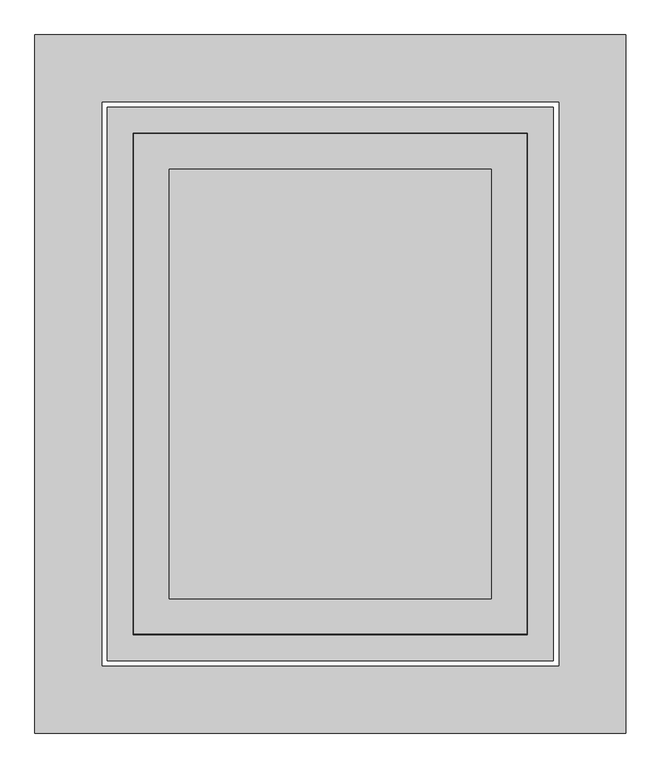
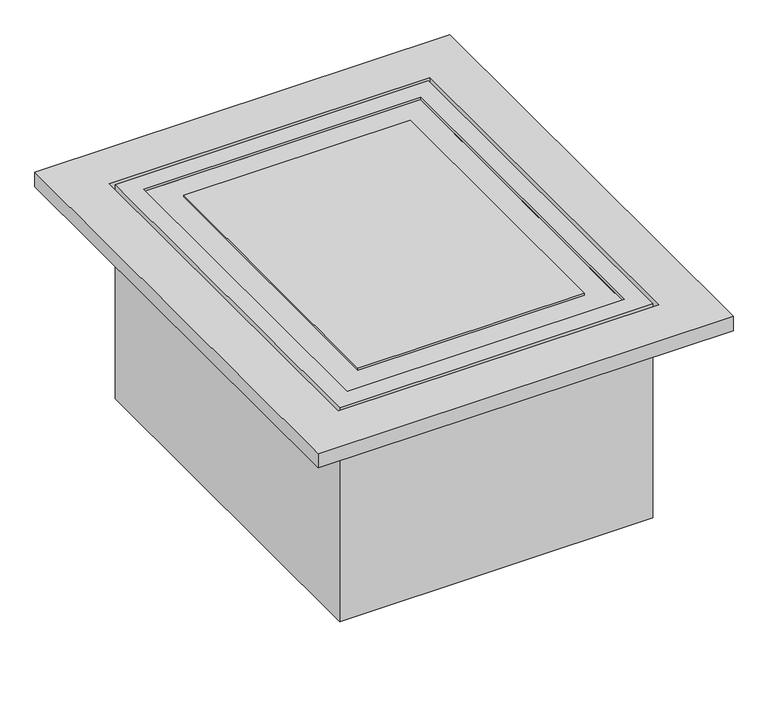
"""IFC4 building model written with IfcOpenShell, lengths in millimetres: air terminal geometry, NLRS_57_AIR_FB_Dakkap DK-2 verzonken_SMA : DK-2-verzonken."""

import ifcopenshell
import ifcopenshell.guid

model = None  # the IFC model being written
_history = None  # IfcOwnerHistory: only IFC2X3 demands one
_inside = {}  # id of a spatial element -> (the spatial element, [elements in it])
_under = {}  # id of a project, library or spatial element -> (it, [spatial elements below it])
_declared = {}  # id of a project -> (the project, [libraries it declares])
_typed = {}  # id of a type object -> (the type object, [elements of that type])
_made_of = {}  # id of a material, layer set ... -> (it, [elements and type objects made of it])


def new_model(schema):
    """Start an empty IFC model of exactly this schema.

    Asked for "IFC4X3", IfcOpenShell would pick the latest addendum, in which some entities
    have other attributes; the version numbers below select the first issue.
    IFC2X3 requires an IfcOwnerHistory on every rooted entity: one is made here for all.
    """
    global model, _history
    if schema == "IFC4X3":
        model = ifcopenshell.file(schema_version=(4, 3, 0, 0))
    else:
        model = ifcopenshell.file(schema=schema)
    _inside.clear()
    _under.clear()
    _declared.clear()
    _typed.clear()
    _made_of.clear()
    _history = None
    if model.schema == "IFC2X3":
        org = make("IfcOrganization", Name="unknown")
        user = make(
            "IfcPersonAndOrganization",
            ThePerson=make("IfcPerson", FamilyName="unknown"),
            TheOrganization=org,
        )
        app = make(
            "IfcApplication",
            ApplicationDeveloper=org,
            Version="unknown",
            ApplicationFullName="unknown",
            ApplicationIdentifier="unknown",
        )
        _history = make(
            "IfcOwnerHistory",
            OwningUser=user,
            OwningApplication=app,
            ChangeAction="ADDED",
            CreationDate=0,
        )
    return model


def make(cls, **values):
    """One entity of the class cls with the attributes given. An attribute that is None is left unset."""
    return model.create_entity(
        cls, **{name: value for name, value in values.items() if value is not None}
    )


def rooted(cls, **values):
    """An entity with a GlobalId (a new one), such as an element, a storey or a relation."""
    return make(cls, GlobalId=ifcopenshell.guid.new(), OwnerHistory=_history, **values)


def si_unit(unit_type, name, prefix=None):
    """IfcSIUnit, for example si_unit("LENGTHUNIT", "METRE", prefix="MILLI")."""
    return make("IfcSIUnit", UnitType=unit_type, Prefix=prefix, Name=name)


def assignment(units):
    """IfcUnitAssignment: the units of a project."""
    return None if units is None else make("IfcUnitAssignment", Units=units)


def point(xyz):
    """IfcCartesianPoint."""
    return None if xyz is None else make("IfcCartesianPoint", Coordinates=xyz)


def direction(xyz):
    """IfcDirection."""
    return None if xyz is None else make("IfcDirection", DirectionRatios=xyz)


def frame(location, z_axis=None, x_axis=None):
    """IfcAxis2Placement3D, a coordinate frame: its origin and axes. An axis left out is left unset."""
    return make(
        "IfcAxis2Placement3D",
        Location=point(location),
        Axis=direction(z_axis),
        RefDirection=direction(x_axis),
    )


def origin():
    """The frame at (0, 0, 0) with its axes left unset."""
    return frame((0.0, 0.0, 0.0))


def place(relative_to, where):
    """IfcLocalPlacement: puts the frame where relative to a parent placement (None: the world)."""
    return make(
        "IfcLocalPlacement", PlacementRelTo=relative_to, RelativePlacement=where
    )


def context(
    kind, dimensions, precision=None, world=None, true_north=None, identifier=None
):
    """IfcGeometricRepresentationContext, for example the 3D "Model" context."""
    return make(
        "IfcGeometricRepresentationContext",
        ContextIdentifier=identifier,
        ContextType=kind,
        CoordinateSpaceDimension=dimensions,
        Precision=precision,
        WorldCoordinateSystem=world,
        TrueNorth=true_north,
    )


def project(units=None, contexts=None):
    """IfcProject with its units and contexts."""
    return rooted(
        "IfcProject",
        Name="project",
        RepresentationContexts=contexts,
        UnitsInContext=assignment(units),
    )


def spatial(cls, under=None, at=None, **own):
    """A site, building, storey or space (cls), placed at a placement, below another one or the project."""
    s = rooted(cls, ObjectPlacement=at, **own)
    if under is not None:
        _under.setdefault(under.id(), (under, []))[1].append(s)
    return s


def faces_of(points, faces, orient=None, outer=None):
    """IfcFace entities. A face is a list of loops; a loop is a list of indices into points, from 0.

    orient and outer hold one flag for each loop. By default every Orientation is true, the
    first loop of a face is its IfcFaceOuterBound and the others are IfcFaceBound.
    """
    made = []
    for i, loops in enumerate(faces):
        bounds = []
        for j, loop in enumerate(loops):
            is_outer = j == 0 if outer is None else outer[i][j]
            bounds.append(
                make(
                    "IfcFaceOuterBound" if is_outer else "IfcFaceBound",
                    Bound=make("IfcPolyLoop", Polygon=[points[k] for k in loop]),
                    Orientation=True if orient is None else orient[i][j],
                )
            )
        made.append(make("IfcFace", Bounds=bounds))
    return made


def faceted_brep(points, faces, orient=None, outer=None, voids=None):
    """IfcFacetedBrep: a solid bounded by flat faces; with voids (closed shells), ...WithVoids."""
    shared = [point(p) for p in points]
    hull = make("IfcClosedShell", CfsFaces=faces_of(shared, faces, orient, outer))
    if voids is None:
        return make("IfcFacetedBrep", Outer=hull)
    return make(
        "IfcFacetedBrepWithVoids",
        Outer=hull,
        Voids=[
            make(cls, CfsFaces=faces_of(shared, fs, o, b)) for cls, fs, o, b in voids
        ],
    )


def shape(context_of_items, identifier, shape_type, items):
    """IfcShapeRepresentation: the items that make up one representation, for example the "Body"."""
    return make(
        "IfcShapeRepresentation",
        ContextOfItems=context_of_items,
        RepresentationIdentifier=identifier,
        RepresentationType=shape_type,
        Items=items,
    )


def source(mapping_origin, context_of_items, identifier, shape_type, items):
    """IfcRepresentationMap: a shape defined once, which mapped items show again and again."""
    return make(
        "IfcRepresentationMap",
        MappingOrigin=mapping_origin,
        MappedRepresentation=shape(context_of_items, identifier, shape_type, items),
    )


def transform(
    local_origin,
    x_axis=None,
    y_axis=None,
    z_axis=None,
    scale=None,
    scale2=None,
    scale3=None,
    uniform=True,
):
    """IfcCartesianTransformationOperator3D, or its non-uniform kind. x_axis, y_axis, z_axis: its Axis1, 2, 3."""
    if uniform:
        return make(
            "IfcCartesianTransformationOperator3D",
            Axis1=direction(x_axis),
            Axis2=direction(y_axis),
            LocalOrigin=point(local_origin),
            Scale=scale,
            Axis3=direction(z_axis),
        )
    return make(
        "IfcCartesianTransformationOperator3DnonUniform",
        Axis1=direction(x_axis),
        Axis2=direction(y_axis),
        LocalOrigin=point(local_origin),
        Scale=scale,
        Axis3=direction(z_axis),
        Scale2=scale2,
        Scale3=scale3,
    )


def mapped(mapping_source, mapping_target):
    """IfcMappedItem: shows the shape of a source again, moved by a transform."""
    return make(
        "IfcMappedItem", MappingSource=mapping_source, MappingTarget=mapping_target
    )


def made_of(thing, what):
    """Note that an element or type object is made of a material, layer set ...; save() writes the relation."""
    if what is not None:
        _made_of.setdefault(what.id(), (what, []))[1].append(thing)
    return thing


def element(
    cls,
    number,
    at=None,
    inside=None,
    cuts=None,
    type_object=None,
    material=None,
    context=None,
    identifier="Body",
    shape_type=None,
    held_by="IfcProductDefinitionShape",
    body=None,
    shapes=None,
    **own,
):
    """One element of the class cls, such as IfcWall. Its Tag is "e" and its number.

    at: its placement. inside: the storey or other place that contains it. cuts: it is an
    opening in that element (IfcRelVoidsElement). A single representation is given by context,
    identifier, shape_type and body (its items); several are given by shapes. held_by: the class
    of the entity that holds the representations. save() writes the other relations.
    """
    e = rooted(cls, Tag="e%d" % number, ObjectPlacement=at, **own)
    if body is not None:
        shapes = [shape(context, identifier, shape_type, body)]
    if shapes is not None:
        e.Representation = make(held_by, Representations=shapes)
    if inside is not None:
        _inside.setdefault(inside.id(), (inside, []))[1].append(e)
    if cuts is not None:
        rooted(
            "IfcRelVoidsElement", RelatingBuildingElement=cuts, RelatedOpeningElement=e
        )
    if type_object is not None:
        _typed.setdefault(type_object.id(), (type_object, []))[1].append(e)
    return made_of(e, material)


def aggregate(whole, parts):
    """IfcRelAggregates: a whole, such as a stair, and the parts it consists of."""
    return rooted("IfcRelAggregates", RelatingObject=whole, RelatedObjects=parts)


def save(model, path):
    """Write the relations noted so far, then the file.

    IfcRelAggregates (storeys below a building ...), IfcRelContainedInSpatialStructure (elements
    in a storey), IfcRelDefinesByType, IfcRelAssociatesMaterial and IfcRelDeclares: one each for
    every whole, place, type object, material and project.
    """
    for whole, parts in _under.values():
        aggregate(whole, parts)
    for where, things in _inside.values():
        rooted(
            "IfcRelContainedInSpatialStructure",
            RelatedElements=things,
            RelatingStructure=where,
        )
    for kind, things in _typed.values():
        rooted("IfcRelDefinesByType", RelatedObjects=things, RelatingType=kind)
    for what, things in _made_of.values():
        rooted("IfcRelAssociatesMaterial", RelatedObjects=things, RelatingMaterial=what)
    for by, libraries in _declared.values():
        rooted("IfcRelDeclares", RelatingContext=by, RelatedDefinitions=libraries)
    model.write(path)


def air_terminal_f73d2a48(model_context):
    return source(origin(), model_context, "Body", "Brep", [
        faceted_brep([(300.0, 400.0, -397.8), (300.0, 400.0, -400.0), (300.0, -400.0, -400.0), (300.0, -400.0, -397.8), (412.0, 512.0, 198.0), (412.0, 512.0, -397.8), (412.0, -512.0, -397.8), (412.0, -512.0, 198.0), (369.0, 469.0, 187.5), (369.0, 469.0, 198.0), (369.0, -469.0, 198.0), (369.0, -469.0, 187.5), (354.5, 454.5, 188.7687085), (354.5, 454.5, 187.5), (354.5, -454.5, 187.5), (354.5, -454.5, 188.7687085), (364.5, 464.5, 193.9627225), (364.5, 464.5, 188.7687085), (364.5, -464.5, 188.7687085), (364.5, -464.5, 193.9627225), (365.5, 465.5, 188.7687085), (365.5, 465.5, 195.0), (365.5, -465.5, 195.0), (365.5, -465.5, 188.7687085), (367.0, 467.0, 200.0), (367.0, 467.0, 188.7687085), (367.0, -467.0, 188.7687085), (367.0, -467.0, 200.0), (415.0, 515.0, -400.0), (415.0, 515.0, 200.0), (415.0, -515.0, 200.0), (415.0, -515.0, -400.0), (-300.0, -400.0, -400.0), (-300.0, -400.0, -397.8), (-412.0, -512.0, -397.8), (-412.0, -512.0, 198.0), (-369.0, -469.0, 198.0), (-369.0, -469.0, 187.5), (-354.5, -454.5, 187.5), (-354.5, -454.5, 188.7687085), (-364.5, -464.5, 188.7687085), (-364.5, -464.5, 193.9627225), (-365.5, -465.5, 195.0), (-365.5, -465.5, 188.7687085), (-367.0, -467.0, 188.7687085), (-367.0, -467.0, 200.0), (-415.0, -515.0, 200.0), (-415.0, -515.0, -400.0), (-300.0, 400.0, -400.0), (-300.0, 400.0, -397.8), (-412.0, 512.0, -397.8), (-412.0, 512.0, 198.0), (-369.0, 469.0, 198.0), (-369.0, 469.0, 187.5), (-354.5, 454.5, 187.5), (-354.5, 454.5, 188.7687085), (-364.5, 464.5, 188.7687085), (-364.5, 464.5, 193.9627225), (-365.5, 465.5, 195.0), (-365.5, 465.5, 188.7687085), (-367.0, 467.0, 188.7687085), (-367.0, 467.0, 200.0), (-415.0, 515.0, 200.0), (-415.0, 515.0, -400.0), (300.0, 400.0, 193.9627225), (-300.0, 400.0, 193.9627225), (-300.0, -400.0, 193.9627225), (300.0, -400.0, 193.9627225), (-300.0, 400.0, 195.0), (300.0, 400.0, 195.0), (300.0, -400.0, 195.0), (-300.0, -400.0, 195.0), (300.0, 400.0, 200.0), (-300.0, 400.0, 200.0), (-300.0, -400.0, 200.0), (300.0, -400.0, 200.0), (300.0, 400.0, 193.2029442), (300.0, -400.0, 193.2029442), (-300.0, -400.0, 193.2029442), (-300.0, 400.0, 193.2029442)], [[[0, 1, 2, 3]], [[4, 5, 6, 7]], [[8, 9, 10, 11]], [[12, 13, 14, 15]], [[16, 17, 18, 19]], [[20, 21, 22, 23]], [[24, 25, 26, 27]], [[28, 29, 30, 31]], [[3, 2, 32, 33]], [[7, 6, 34, 35]], [[11, 10, 36, 37]], [[15, 14, 38, 39]], [[19, 18, 40, 41]], [[23, 22, 42, 43]], [[27, 26, 44, 45]], [[31, 30, 46, 47]], [[33, 32, 48, 49]], [[35, 34, 50, 51]], [[37, 36, 52, 53]], [[39, 38, 54, 55]], [[41, 40, 56, 57]], [[43, 42, 58, 59]], [[45, 44, 60, 61]], [[47, 46, 62, 63]], [[28, 31, 47, 63], [2, 1, 48, 32]], [[1, 0, 49, 48]], [[6, 5, 50, 34], [0, 3, 33, 49]], [[5, 4, 51, 50]], [[4, 7, 35, 51], [10, 9, 52, 36]], [[9, 8, 53, 52]], [[8, 11, 37, 53], [14, 13, 54, 38]], [[13, 12, 55, 54]], [[18, 17, 56, 40], [12, 15, 39, 55]], [[17, 16, 57, 56]], [[16, 19, 41, 57], [64, 65, 66, 67]], [[22, 21, 58, 42], [68, 69, 70, 71]], [[21, 20, 59, 58]], [[26, 25, 60, 44], [20, 23, 43, 59]], [[25, 24, 61, 60]], [[30, 29, 62, 46], [24, 27, 45, 61]], [[29, 28, 63, 62]], [[72, 73, 74, 75]], [[76, 77, 78, 79]], [[73, 72, 69, 68]], [[76, 79, 65, 64]], [[74, 73, 68, 71]], [[79, 78, 66, 65]], [[75, 74, 71, 70]], [[78, 77, 67, 66]], [[72, 75, 70, 69]], [[77, 76, 64, 67]]]),
        faceted_brep([(550.0, 650.0, 200.0), (-550.0, 650.0, 200.0), (-550.0, -650.0, 200.0), (550.0, -650.0, 200.0), (425.0, 525.0, 200.0), (425.0, -525.0, 200.0), (-425.0, -525.0, 200.0), (-425.0, 525.0, 200.0), (550.0, 650.0, 160.0), (550.0, -650.0, 160.0), (-550.0, -650.0, 160.0), (-550.0, 650.0, 160.0), (425.0, 525.0, 160.0), (-425.0, 525.0, 160.0), (-425.0, -525.0, 160.0), (425.0, -525.0, 160.0)], [[[0, 1, 2, 3], [4, 5, 6, 7]], [[8, 9, 10, 11], [12, 13, 14, 15]], [[1, 0, 8, 11]], [[2, 1, 11, 10]], [[3, 2, 10, 9]], [[0, 3, 9, 8]], [[5, 4, 12, 15]], [[6, 5, 15, 14]], [[7, 6, 14, 13]], [[4, 7, 13, 12]]]),
    ])


if __name__ == "__main__":
    model = new_model("IFC4")
    model_context = context("Model", 3, world=origin())
    ifc_project = project(units=[si_unit("LENGTHUNIT", "METRE", prefix="MILLI")], contexts=[model_context])
    site = spatial("IfcSite", under=ifc_project)
    building = spatial("IfcBuilding", under=site)
    placement = place(None, origin())
    air_terminal_shape = air_terminal_f73d2a48(model_context)
    element("IfcAirTerminal", 1, ObjectType="NLRS_57_AIR_FB_Dakkap DK-2 verzonken_SMA : DK-2-verzonken", at=placement, inside=building, context=model_context, shape_type="MappedRepresentation", body=[
        mapped(air_terminal_shape, transform((0.0, 0.0, 0.0), x_axis=(1.0, 0.0, 0.0), y_axis=(0.0, 1.0, 0.0), z_axis=(0.0, 0.0, 1.0))),
    ])
    save(model, "model.ifc")
